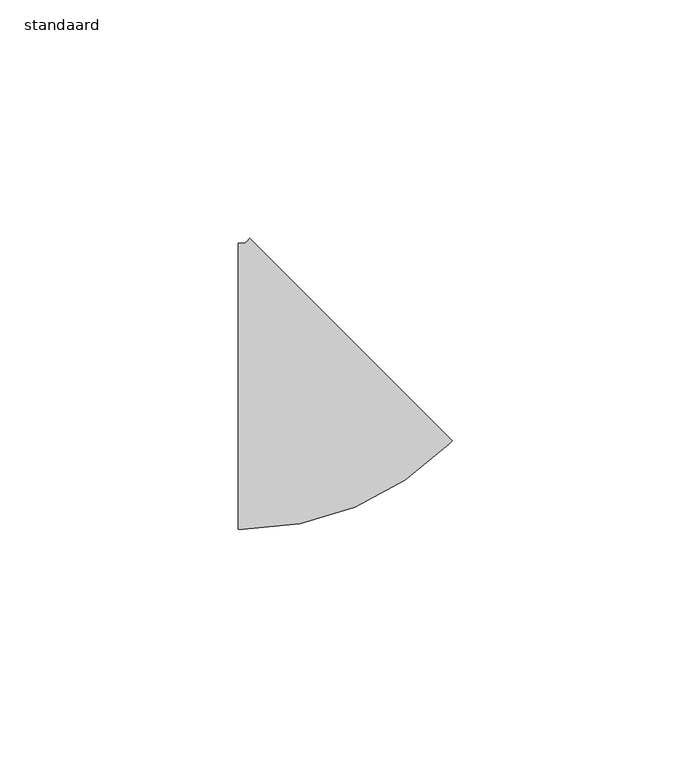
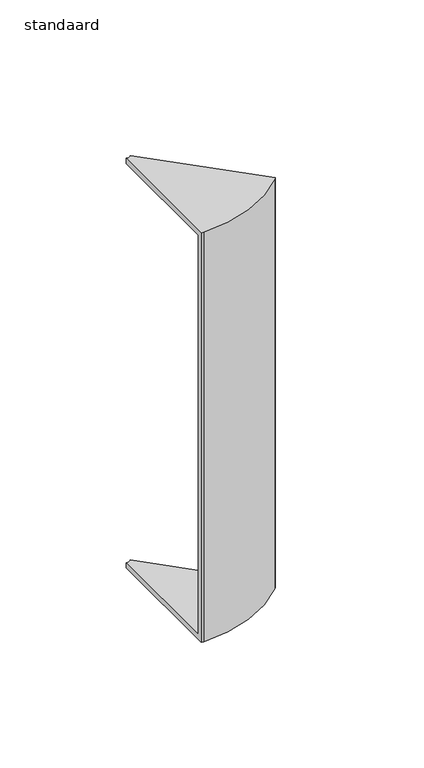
"""IFC4 building model written with IfcOpenShell, lengths in millimetres: cable carrier fitting geometry, AI_Raccord cdc_Coude montant : standaard."""

from ifc_helpers import new_model, si_unit, frame, origin, place, context, project, spatial, polyline, circle_curve, source, transform, mapped, element, save
from ifc_brep_helpers import plane_surface, cylinder_surface, revolved_surface, advanced_brep


def standaard_35becd63(model_context):
    return source(origin(), model_context, "Body", "AdvancedBrep", [
        advanced_brep(
        [(-13.8406204, 30.0, 100.0), (-13.8406204, 30.0, 97.46), (-13.8406204, -27.46, 97.46), (-13.8406204, -27.46, -97.46), (-13.8406204, 30.0, -97.46), (-13.8406204, 30.0, -100.0), (-13.8406204, -30.0, -100.0), (-13.8406204, -30.0, 100.0), (-11.4264069, 31.0, 100.0), (31.0, -11.4264069, 100.0), (31.0, -11.4264069, -100.0), (-11.4264069, 31.0, -100.0), (-11.4264069, 31.0, -97.46), (29.2039488, -9.6303557, -97.46), (29.2039488, -9.6303557, 97.46), (-11.4264069, 31.0, 97.46), (-12.8406204, -30.0, 100.0), (30.2928932, -12.1335137, 100.0), (-12.1335137, 30.2928932, 100.0), (-12.8406204, 30.0, 100.0), (-12.8406204, -30.0, -100.0), (-12.8406204, 30.0, -100.0), (-12.1335137, 30.2928932, -100.0), (30.2928932, -12.1335137, -100.0), (-12.8406204, 30.0, -97.46), (-12.8406204, -27.46, -97.46), (28.496842, -10.3374624, -97.46), (-12.1335137, 30.2928932, -97.46), (-12.8406204, -27.46, 97.46), (-12.8406204, 30.0, 97.46), (-12.1335137, 30.2928932, 97.46), (28.496842, -10.3374624, 97.46)],
        [
            (0, 1),
            (1, 2),
            (2, 3),
            (3, 4),
            (4, 5),
            (5, 6),
            (6, 7),
            (7, 0),
            (8, 9),
            (9, 10),
            (10, 11),
            (11, 12),
            (12, 13),
            (13, 14),
            (14, 15),
            (15, 8),
            (7, 16),
            (16, 17, circle_curve(frame((-12.8406204, 31.0, 100.0), z_axis=(0.0, 0.0, 1.0), x_axis=(0.0, -1.0, 0.0)), 61.0)),
            (17, 9),
            (8, 18),
            (18, 19, circle_curve(frame((-12.8406204, 31.0, 100.0), z_axis=(0.0, 0.0, -1.0), x_axis=(0.0, -1.0, 0.0)), 1.0)),
            (19, 0),
            (6, 20),
            (20, 16),
            (5, 21),
            (21, 22, circle_curve(frame((-12.8406204, 31.0, -100.0), z_axis=(0.0, 0.0, 1.0), x_axis=(0.0, -1.0, 0.0)), 1.0)),
            (22, 11),
            (10, 23),
            (23, 20, circle_curve(frame((-12.8406204, 31.0, -100.0), z_axis=(0.0, 0.0, -1.0), x_axis=(0.0, -1.0, 0.0)), 61.0)),
            (4, 24),
            (24, 21),
            (3, 25),
            (25, 26, circle_curve(frame((-12.8406204, 31.0, -97.46), z_axis=(0.0, 0.0, 1.0), x_axis=(0.0, -1.0, 0.0)), 58.46)),
            (26, 13),
            (12, 27),
            (27, 24, circle_curve(frame((-12.8406204, 31.0, -97.46), z_axis=(0.0, 0.0, -1.0), x_axis=(0.0, -1.0, 0.0)), 1.0)),
            (2, 28),
            (28, 25),
            (1, 29),
            (29, 30, circle_curve(frame((-12.8406204, 31.0, 97.46), z_axis=(0.0, 0.0, 1.0), x_axis=(0.0, -1.0, 0.0)), 1.0)),
            (30, 15),
            (14, 31),
            (31, 28, circle_curve(frame((-12.8406204, 31.0, 97.46), z_axis=(0.0, 0.0, -1.0), x_axis=(0.0, -1.0, 0.0)), 58.46)),
            (19, 29),
            (23, 17),
            (27, 22),
            (31, 26),
            (18, 30),
        ],
        [
            plane_surface(frame((-13.8406204, 0.0, 0.0), z_axis=(-1.0, -4.9152015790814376e-12, 0.0), x_axis=(0.0, 0.0, 1.0))),
            plane_surface(frame((9.7867966, 9.7867966, 0.0), z_axis=(0.7071067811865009, 0.7071067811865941, 0.0), x_axis=(0.0, 0.0, 1.0))),
            plane_surface(frame((-13.8406204, -30.0, 100.0), z_axis=(0.0, 0.0, 1.0), x_axis=(1.0, 4.9236614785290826e-12, 0.0))),
            plane_surface(frame((-13.8406204, -30.0, -100.0), z_axis=(4.9236614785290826e-12, -1.0, 0.0), x_axis=(1.0, 4.9236614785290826e-12, 0.0))),
            plane_surface(frame((-13.8406204, 30.0, -100.0), z_axis=(0.0, 0.0, -1.0), x_axis=(1.0, 4.915201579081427e-12, 0.0))),
            plane_surface(frame((-13.8406204, 30.0, -97.46), z_axis=(-4.915201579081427e-12, 1.0, 0.0), x_axis=(1.0, 4.915201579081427e-12, 0.0))),
            plane_surface(frame((-13.8406204, -27.46, -97.46), z_axis=(0.0, 0.0, 1.0), x_axis=(1.0, 4.9152015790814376e-12, 0.0))),
            plane_surface(frame((-13.8406204, -27.46, 97.46), z_axis=(-4.9152015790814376e-12, 1.0, 0.0), x_axis=(1.0, 4.9152015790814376e-12, 0.0))),
            plane_surface(frame((-13.8406204, 30.0, 97.46), z_axis=(0.0, 0.0, -1.0), x_axis=(1.0, 4.915201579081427e-12, 0.0))),
            plane_surface(frame((-13.8406204, 30.0, 100.0), z_axis=(-4.915201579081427e-12, 1.0, 0.0), x_axis=(1.0, 4.915201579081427e-12, 0.0))),
            cylinder_surface(frame((-12.8406204, 31.0, 0.0), z_axis=(0.0, 0.0, 1.0), x_axis=(0.0, -1.0, 0.0)), 61.0),
            revolved_surface(polyline([(-12.8406204, 30.0, -97.46), (-12.8406204, 30.0, -100.0)]), (-12.8406204, 31.0, 0.0), (0.0, 0.0, 1.0)),
            revolved_surface(polyline([(-12.8406204, -27.46, 97.46), (-12.8406204, -27.46, -97.46)]), (-12.8406204, 31.0, 0.0), (0.0, 0.0, 1.0)),
            revolved_surface(polyline([(-12.8406204, 30.0, 100.0), (-12.8406204, 30.0, 97.46)]), (-12.8406204, 31.0, 0.0), (0.0, 0.0, 1.0)),
            plane_surface(frame((30.2928932, -12.1335137, -100.0), z_axis=(0.7071067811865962, -0.707106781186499, 0.0), x_axis=(0.707106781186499, 0.7071067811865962, 0.0))),
            plane_surface(frame((-12.1335137, 30.2928932, -97.46), z_axis=(-0.7071067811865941, 0.7071067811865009, 0.0), x_axis=(0.7071067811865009, 0.7071067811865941, 0.0))),
            plane_surface(frame((28.496842, -10.3374624, 97.46), z_axis=(-0.7071067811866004, 0.7071067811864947, 0.0), x_axis=(0.7071067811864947, 0.7071067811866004, 0.0))),
            plane_surface(frame((-12.1335137, 30.2928932, 100.0), z_axis=(-0.7071067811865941, 0.7071067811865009, 0.0), x_axis=(0.7071067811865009, 0.7071067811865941, 0.0))),
        ],
        [
            (0, [[1, 2, 3, 4, 5, 6, 7, 8]]),
            (1, [[9, 10, 11, 12, 13, 14, 15, 16]]),
            (2, [[-8, 17, 18, 19, -9, 20, 21, 22]]),
            (3, [[-7, 23, 24, -17]]),
            (4, [[-6, 25, 26, 27, -11, 28, 29, -23]]),
            (5, [[-5, 30, 31, -25]]),
            (6, [[-4, 32, 33, 34, -13, 35, 36, -30]]),
            (7, [[-3, 37, 38, -32]]),
            (8, [[-2, 39, 40, 41, -15, 42, 43, -37]]),
            (9, [[-1, -22, 44, -39]]),
            (10, [[-18, -24, -29, 45]]),
            (11, [[-26, -31, -36, 46]]),
            (12, [[-33, -38, -43, 47]]),
            (13, [[-40, -44, -21, 48]]),
            (14, [[-45, -28, -10, -19]]),
            (15, [[-46, -35, -12, -27]]),
            (16, [[-47, -42, -14, -34]]),
            (17, [[-48, -20, -16, -41]]),
        ],
    ),
    ])


if __name__ == "__main__":
    model = new_model("IFC4")
    model_context = context("Model", 3, world=origin())
    ifc_project = project(units=[si_unit("LENGTHUNIT", "METRE", prefix="MILLI")], contexts=[model_context])
    site = spatial("IfcSite", under=ifc_project)
    building = spatial("IfcBuilding", under=site)
    placement = place(None, origin())
    standaard_shape = standaard_35becd63(model_context)
    element("IfcCableCarrierFitting", 1, ObjectType="AI_Raccord cdc_Coude montant : standaard", at=placement, inside=building, context=model_context, shape_type="MappedRepresentation", body=[
        mapped(standaard_shape, transform((0.0, 0.0, 0.0), x_axis=(1.0, 0.0, 0.0), y_axis=(0.0, 1.0, 0.0), z_axis=(0.0, 0.0, 1.0))),
    ])
    save(model, "model.ifc")
